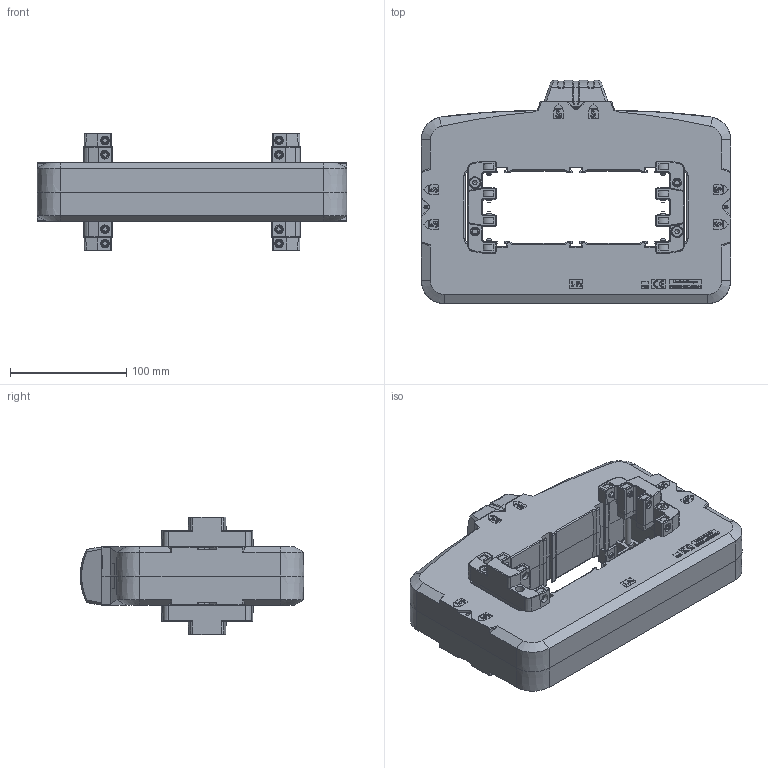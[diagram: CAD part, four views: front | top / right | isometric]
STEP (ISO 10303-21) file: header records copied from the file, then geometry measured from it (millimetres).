
FILE_DESCRIPTION(/* description */ (''),/* implementation_level */ '2;1');
FILE_NAME(/* name */ 'ASK165.5.stp',/* time_stamp */ '2024-03-04T15:09:23+01:00',/* author */ ('JDI'),/* organization */ (''),/* preprocessor_version */ 'ST-DEVELOPER v19.2',/* originating_system */ 'Autodesk Inventor 2023',/* authorisation */ '');
FILE_SCHEMA (('AUTOMOTIVE_DESIGN { 1 0 10303 214 3 1 1 }'));
Products named in the file (1): ASK165.5
Bounding box: 266 x 192 x 101 mm (x, y, z)
Volume: 382421.7 mm3; surface area: 332792.6 mm2
Topology: 18 solids, 18 shells, 3888 faces, 10018 edges, 6414 vertices
Faces by surface type: plane 2488, cylinder 664, bspline 447, cone 265, torus 24
Full cylindrical faces by diameter (mm): 2 x3, 3 x5, 4.2 x2, 5 x20, 7.35 x16, 9.7 x4
Entity records: 145203 total; most frequent: CARTESIAN_POINT 48813, ORIENTED_EDGE 19980, DIRECTION 17442, EDGE_CURVE 9990, LINE 7334, VECTOR 7334, VERTEX_POINT 6414, AXIS2_PLACEMENT_3D 5054
